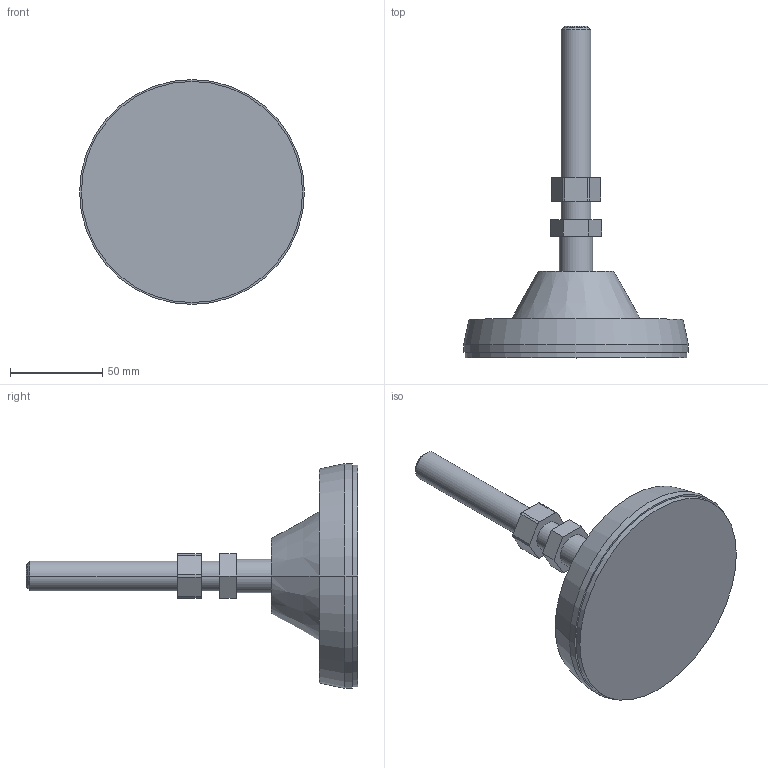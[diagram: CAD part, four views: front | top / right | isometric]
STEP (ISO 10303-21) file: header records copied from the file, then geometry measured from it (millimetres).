
FILE_DESCRIPTION((''),'2;1');
FILE_NAME('SUP12016','2002-12-27T',('Lipro doo'),('Lipro d.o.o.'),'PRO/ENGINEER BY PARAMETRIC TECHNOLOGY CORPORATION, 2001150','PRO/ENGINEER BY PARAMETRIC TECHNOLOGY CORPORATION, 2001150','');
FILE_SCHEMA(('CONFIG_CONTROL_DESIGN'));
Length unit declared in the file: millimetre
Products named in the file (1): SUP12016
Bounding box: 122 x 180 x 122 mm (x, y, z)
Volume: 334958 mm3; surface area: 46041.4 mm2
Topology: 1 solids, 2 shells, 45 faces, 104 edges, 68 vertices
Faces by surface type: plane 21, cylinder 18, cone 6
Entity records: 1334 total; most frequent: DIRECTION 240, CARTESIAN_POINT 218, ORIENTED_EDGE 204, EDGE_CURVE 104, AXIS2_PLACEMENT_3D 90, VERTEX_POINT 68, VECTOR 60, LINE 60
